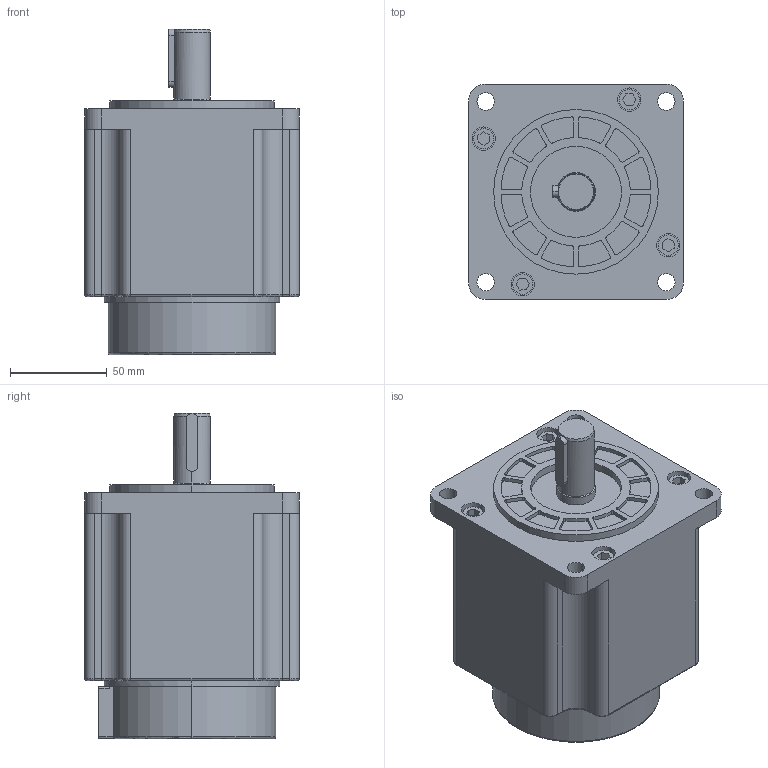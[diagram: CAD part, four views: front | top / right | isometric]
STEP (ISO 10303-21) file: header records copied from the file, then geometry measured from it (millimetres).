
FILE_DESCRIPTION (( 'STEP AP214' ), '1' );
FILE_NAME ('FHB31112祭輛萇儂誘欶.STEP', '2019-08-14T02:39:04', ( 'hzmg' ), ( '' ), 'SwSTEP 2.0', 'SolidWorks 2016', '' );
FILE_SCHEMA (( 'AUTOMOTIVE_DESIGN' ));
Length unit declared in the file: millimetre
Products named in the file (1): FHB31112祭輛萇儂誘欶
Bounding box: 111 x 111 x 168 mm (x, y, z)
Volume: 1277426.8 mm3; surface area: 81493.9 mm2
Topology: 1 solids, 1 shells, 276 faces, 702 edges, 456 vertices
Faces by surface type: cylinder 155, plane 102, torus 15, cone 4
Entity records: 8547 total; most frequent: DIRECTION 1569, CARTESIAN_POINT 1531, ORIENTED_EDGE 1404, EDGE_CURVE 702, AXIS2_PLACEMENT_3D 600, VERTEX_POINT 456, VECTOR 369, LINE 369
